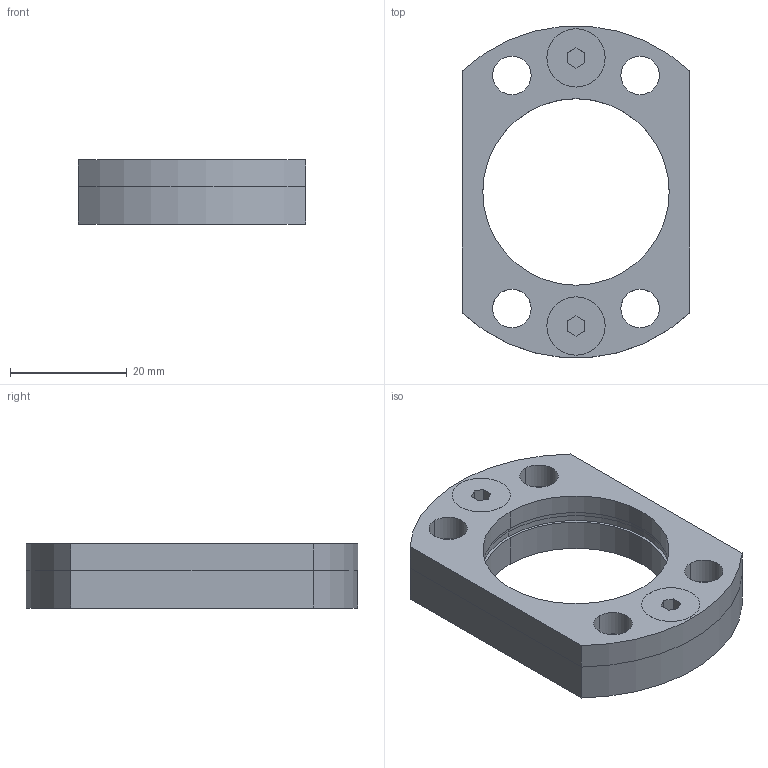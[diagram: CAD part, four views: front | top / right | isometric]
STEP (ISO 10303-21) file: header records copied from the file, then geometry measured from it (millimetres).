
FILE_DESCRIPTION(/* description */ (''),/* implementation_level */ '2;1');
FILE_NAME(/* name */ '3d_fm-32_03756_r00.stp',/* time_stamp */ '2011-01-10T14:15:37+09:00',/* author */ ('MISUMI'),/* organization */ (''),/* preprocessor_version */ 'ST-DEVELOPER v11',/* originating_system */ 'UGS - NX 5.0',/* authorisation */ '');
FILE_SCHEMA (('CONFIG_CONTROL_DESIGN'));
Length unit declared in the file: millimetre
Products named in the file (1): 3d_fm-32_03756_r00
Bounding box: 39 x 56.8 x 11 mm (x, y, z)
Volume: 11838 mm3; surface area: 9089.2 mm2
Topology: 4 solids, 4 shells, 80 faces, 192 edges, 124 vertices
Faces by surface type: cylinder 40, plane 28, cone 12
Entity records: 2488 total; most frequent: DIRECTION 446, CARTESIAN_POINT 397, ORIENTED_EDGE 384, EDGE_CURVE 192, AXIS2_PLACEMENT_3D 173, VERTEX_POINT 124, EDGE_LOOP 112, LINE 100
